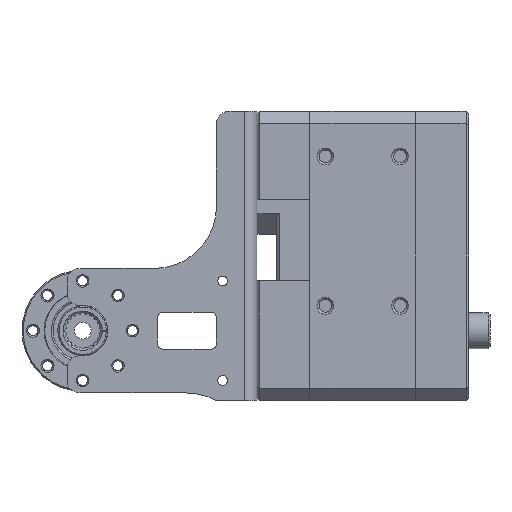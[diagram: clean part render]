
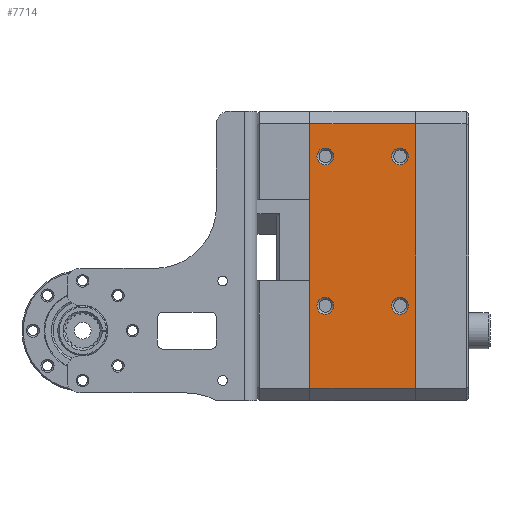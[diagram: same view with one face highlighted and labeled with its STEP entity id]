
A CAD part, front view. The second image highlights one B-rep face of the part: STEP entity #7714.
In plain terms, the highlighted planar face has unit normal (0, -1, 0) as drawn and (1, 0, 0) by its records, which use the part's own axes.
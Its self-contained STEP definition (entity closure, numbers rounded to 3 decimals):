
#763=LINE('',#13209,#1202);
#775=LINE('',#13256,#1214);
#776=LINE('',#13259,#1215);
#777=LINE('',#13260,#1216);
#1202=VECTOR('',#10503,42.5);
#1214=VECTOR('',#10547,17.);
#1215=VECTOR('',#10550,42.5);
#1216=VECTOR('',#10551,17.);
#1414=PLANE('',#8546);
#1747=FACE_BOUND('',#2952,.T.);
#1748=FACE_BOUND('',#2953,.T.);
#1749=FACE_BOUND('',#2954,.T.);
#1750=FACE_BOUND('',#2955,.T.);
#2196=FACE_OUTER_BOUND('',#2951,.T.);
#2951=EDGE_LOOP('',(#6859,#6860,#6861,#6862));
#2952=EDGE_LOOP('',(#6863));
#2953=EDGE_LOOP('',(#6864));
#2954=EDGE_LOOP('',(#6865));
#2955=EDGE_LOOP('',(#6866));
#3524=CIRCLE('',#8547,1.35);
#3525=CIRCLE('',#8548,1.35);
#3526=CIRCLE('',#8549,1.35);
#3527=CIRCLE('',#8550,1.35);
#4198=VERTEX_POINT('',#13206);
#4199=VERTEX_POINT('',#13208);
#4218=VERTEX_POINT('',#13254);
#4219=VERTEX_POINT('',#13258);
#4220=VERTEX_POINT('',#13261);
#4221=VERTEX_POINT('',#13263);
#4222=VERTEX_POINT('',#13265);
#4223=VERTEX_POINT('',#13267);
#5117=EDGE_CURVE('',#4198,#4199,#763,.T.);
#5141=EDGE_CURVE('',#4198,#4218,#775,.T.);
#5142=EDGE_CURVE('',#4219,#4218,#776,.T.);
#5143=EDGE_CURVE('',#4199,#4219,#777,.T.);
#5144=EDGE_CURVE('',#4220,#4220,#3524,.T.);
#5145=EDGE_CURVE('',#4221,#4221,#3525,.T.);
#5146=EDGE_CURVE('',#4222,#4222,#3526,.T.);
#5147=EDGE_CURVE('',#4223,#4223,#3527,.T.);
#6859=ORIENTED_EDGE('',*,*,#5117,.F.);
#6860=ORIENTED_EDGE('',*,*,#5141,.T.);
#6861=ORIENTED_EDGE('',*,*,#5142,.F.);
#6862=ORIENTED_EDGE('',*,*,#5143,.F.);
#6863=ORIENTED_EDGE('',*,*,#5144,.F.);
#6864=ORIENTED_EDGE('',*,*,#5145,.F.);
#6865=ORIENTED_EDGE('',*,*,#5146,.F.);
#6866=ORIENTED_EDGE('',*,*,#5147,.F.);
#7714=ADVANCED_FACE('',(#2196,#1747,#1748,#1749,#1750),#1414,.T.);
#8546=AXIS2_PLACEMENT_3D('',#13257,#10548,#10549);
#8547=AXIS2_PLACEMENT_3D('',#13262,#10552,#10553);
#8548=AXIS2_PLACEMENT_3D('',#13264,#10554,#10555);
#8549=AXIS2_PLACEMENT_3D('',#13266,#10556,#10557);
#8550=AXIS2_PLACEMENT_3D('',#13268,#10558,#10559);
#10503=DIRECTION('',(0.,1.,0.));
#10547=DIRECTION('',(0.,0.,-1.));
#10548=DIRECTION('center_axis',(1.,0.,0.));
#10549=DIRECTION('ref_axis',(0.,1.,0.));
#10550=DIRECTION('',(0.,-1.,0.));
#10551=DIRECTION('',(0.,0.,-1.));
#10552=DIRECTION('center_axis',(1.,0.,0.));
#10553=DIRECTION('ref_axis',(0.,-1.,0.));
#10554=DIRECTION('center_axis',(1.,0.,0.));
#10555=DIRECTION('ref_axis',(0.,-1.,0.));
#10556=DIRECTION('center_axis',(1.,0.,0.));
#10557=DIRECTION('ref_axis',(0.,-1.,0.));
#10558=DIRECTION('center_axis',(1.,0.,0.));
#10559=DIRECTION('ref_axis',(0.,-1.,0.));
#13206=CARTESIAN_POINT('',(14.25,-33.25,8.5));
#13208=CARTESIAN_POINT('',(14.25,9.25,8.5));
#13209=CARTESIAN_POINT('',(14.25,-17.625,8.5));
#13254=CARTESIAN_POINT('',(14.25,-33.25,-8.5));
#13256=CARTESIAN_POINT('',(14.25,-33.25,16.6));
#13257=CARTESIAN_POINT('Origin',(14.25,-35.25,-17.));
#13258=CARTESIAN_POINT('',(14.25,9.25,-8.5));
#13259=CARTESIAN_POINT('',(14.25,-17.625,-8.5));
#13260=CARTESIAN_POINT('',(14.25,9.25,16.6));
#13261=CARTESIAN_POINT('',(14.25,-5.35,-6.));
#13262=CARTESIAN_POINT('Origin',(14.25,-4.,-6.));
#13263=CARTESIAN_POINT('',(14.25,-26.65,6.));
#13264=CARTESIAN_POINT('Origin',(14.25,-28.,6.));
#13265=CARTESIAN_POINT('',(14.25,-26.65,-6.));
#13266=CARTESIAN_POINT('Origin',(14.25,-28.,-6.));
#13267=CARTESIAN_POINT('',(14.25,-2.65,6.));
#13268=CARTESIAN_POINT('Origin',(14.25,-4.,6.));
